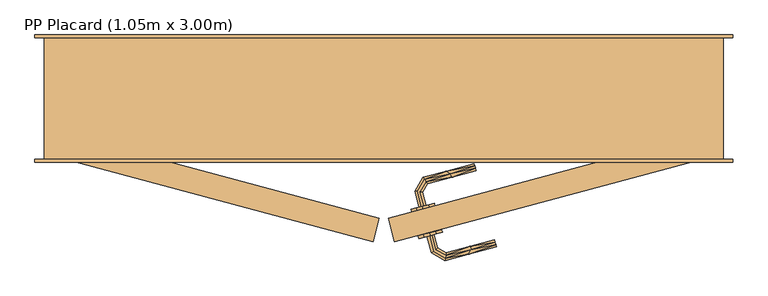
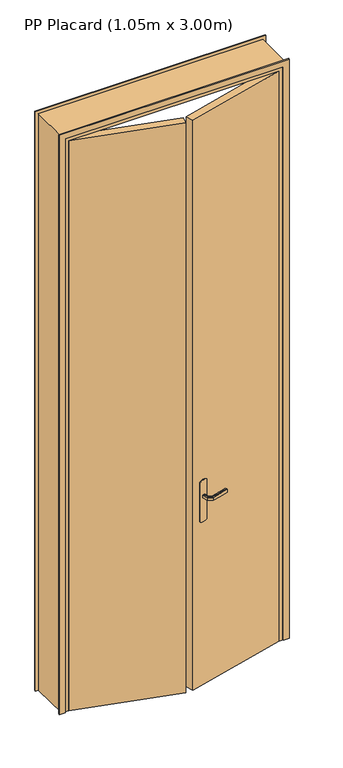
"""IFC4 building model written with IfcOpenShell, lengths in millimetres: door geometry, PP Placard (1.05m x 3.00m)."""

from ifc_helpers import new_model, si_unit, frame, origin, origin_with_axes, place, context, project, spatial, polyline, outline, extrude, faceted_brep, source, transform, mapped, element, save


def pp_placard_1_05m_x_3_00m_5a693a3f(model_context):
    return source(origin(), model_context, "Body", "SolidModel", [
        extrude(outline(polyline([(0.0, 0.0), (3.0658951, 9.9818657), (212.1249722, 29.8389109), (217.015302, 20.6127508), (219.3510918, 10.4352539), (218.9731616, 0.0), (215.9072666, -9.9818658), (6.8481894, -29.8389109), (1.9578596, -20.6127507), (-0.3779302, -10.4352539), (0.0, 0.0)])), frame((635.491729, -79.034331, 866.0039831), z_axis=(-0.2588190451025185, 0.965925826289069, 0.0), x_axis=(-0.09133539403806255, -0.024473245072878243, 0.9955194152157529)), (0.0, 0.0, 1.0), 5.0),
        extrude(outline(polyline([(0.0, -15.0), (0.0, 15.0), (3030.0, 15.0), (3030.0, 1105.0), (0.0, 1105.0), (0.0, 1135.0), (3060.0, 1135.0), (3060.0, -15.0), (0.0, -15.0)])), frame((0.0, -5.0, 0.0), z_axis=(0.0, 1.0, 0.0), x_axis=(0.0, 0.0, 1.0)), (0.0, 0.0, 1.0), 5.0),
        extrude(outline(polyline([(0.0, -15.0), (0.0, 15.0), (3030.0, 15.0), (3030.0, 1105.0), (0.0, 1105.0), (0.0, 1135.0), (3060.0, 1135.0), (3060.0, -15.0), (0.0, -15.0)])), frame((0.0, 200.0, 0.0), z_axis=(0.0, 1.0, 0.0), x_axis=(0.0, 0.0, 1.0)), (0.0, 0.0, 1.0), 5.0),
        extrude(outline(polyline([(552.4638206, -97.2429656), (542.1110588, -135.8799987), (35.0, 0.0), (45.3527618, 38.6370331), (552.4638206, -97.2429656)])), origin_with_axes(), (0.0, 0.0, 1.0), 3010.0),
        faceted_brep([(622.2413455, -77.4083797, 1007.7804408), (618.4020788, -78.4371081, 1007.0), (618.4020788, -78.4371081, 993.0), (622.2413455, -77.4083797, 992.2195592), (626.153922, -76.3600079, 992.2195592), (629.9931887, -75.3312795, 993.0), (629.9931887, -75.3312795, 1007.0), (626.153922, -76.3600079, 1007.7804408), (624.1735895, -53.6122398, 993.0), (624.1735895, -53.6122398, 1007.0), (619.9082096, -53.0506919, 1007.7804408), (629.6759052, -36.1325469, 1007.7804408), (627.0068911, -32.6542201, 1007.7804408), (615.5613833, -52.4784213, 1007.7804408), (611.2960033, -51.9168734, 1007.0), (611.2960033, -51.9168734, 993.0), (615.5613833, -52.4784213, 992.2195592), (627.0068911, -32.6542201, 992.2195592), (629.6759052, -36.1325469, 992.2195592), (619.9082096, -53.0506919, 992.2195592), (632.2949099, -39.5457003, 993.0), (632.2949099, -39.5457003, 1007.0), (624.3878864, -29.2410667, 1007.0), (624.3878864, -29.2410667, 993.0), (712.0422313, -18.17747, 993.0), (711.0135029, -14.3382033, 992.2195592), (709.9651311, -10.4256267, 992.2195592), (708.9364027, -6.58636, 993.0), (708.9364027, -6.58636, 1007.0), (709.9651311, -10.4256267, 1007.7804408), (711.0135029, -14.3382033, 1007.7804408), (712.0422313, -18.17747, 1007.0), (672.1685591, -28.8615882, 993.0), (672.1685706, -28.8615851, 1007.0), (669.8205181, -23.2790868, 1007.8786868), (662.9577752, -18.9062961, 1007.0), (662.9577738, -18.9062965, 993.0), (669.8205184, -23.2790868, 992.1213132)], [[[0, 1, 2, 3, 4, 5, 6, 7]], [[6, 5, 8, 9]], [[9, 10, 7, 6]], [[10, 11, 12, 13, 0, 7]], [[13, 14, 1, 0]], [[2, 1, 14, 15]], [[15, 16, 3, 2]], [[16, 17, 18, 19, 4, 3]], [[19, 8, 5, 4]], [[9, 8, 20, 21]], [[21, 11, 10, 9]], [[12, 22, 14, 13]], [[15, 14, 22, 23]], [[23, 17, 16, 15]], [[18, 20, 8, 19]], [[24, 25, 26, 27, 28, 29, 30, 31]], [[21, 20, 32, 24, 31, 33]], [[33, 30, 34]], [[35, 34, 29]], [[21, 33, 11]], [[33, 31, 30]], [[28, 35, 29]], [[22, 12, 35]], [[35, 12, 34]], [[12, 11, 34]], [[11, 33, 34]], [[29, 34, 30]], [[22, 35, 28, 27, 36, 23]], [[36, 26, 37]], [[27, 26, 36]], [[17, 23, 36]], [[37, 32, 18]], [[20, 18, 32]], [[32, 25, 24]], [[26, 25, 37]], [[25, 32, 37]], [[17, 36, 37]], [[17, 37, 18]]]),
        extrude(outline(polyline([(567.5361794, -97.2429656), (1074.6472382, 38.6370331), (1085.0, 0.0), (577.8889412, -135.8799987), (567.5361794, -97.2429656)])), origin_with_axes(), (0.0, 0.0, 1.0), 3010.0),
        extrude(outline(polyline([(0.0, 0.0), (3.0658951, 9.9818657), (212.1249722, 29.8389109), (217.015302, 20.6127508), (219.3510918, 10.4352539), (218.9731616, 0.0), (215.9072666, -9.9818657), (6.8481894, -29.8389108), (1.9578596, -20.6127507), (-0.3779302, -10.4352539), (0.0, 0.0)])), frame((647.138586, -122.5009932, 866.0039831), z_axis=(-0.2588190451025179, 0.9659258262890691, 0.0), x_axis=(-0.09133539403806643, -0.024473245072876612, 0.9955194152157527)), (0.0, 0.0, 1.0), 5.0),
        faceted_brep([(635.1822977, -125.704671, 1007.7804408), (639.0948743, -124.6562992, 1007.7804408), (642.934141, -123.6275708, 1007.0), (642.934141, -123.6275708, 993.0), (639.0948743, -124.6562992, 992.2195592), (635.1822977, -125.704671, 992.2195592), (631.343031, -126.7333994, 993.0), (631.343031, -126.7333994, 1007.0), (638.4996237, -153.4421668, 1007.0), (641.9127771, -150.823162, 1007.7804408), (661.5685653, -162.1714366, 1007.7804408), (662.1408358, -157.8246103, 1007.7804408), (645.3911039, -148.154148, 1007.7804408), (648.8042573, -145.5351433, 1007.0), (648.8042573, -145.5351433, 993.0), (645.3911039, -148.154148, 992.2195592), (662.1408358, -157.8246103, 992.2195592), (661.5685653, -162.1714366, 992.2195592), (641.9127771, -150.823162, 992.2195592), (638.4996237, -153.4421668, 993.0), (661.0070174, -166.4368166, 1007.0), (662.7023838, -153.5592304, 1007.0), (662.7023838, -153.5592304, 993.0), (661.0070174, -166.4368166, 993.0), (745.6621387, -143.7535452, 993.0), (744.6334103, -139.9142785, 992.2195592), (743.5850385, -136.001702, 992.2195592), (742.5563101, -132.1624353, 993.0), (742.5563101, -132.1624353, 1007.0), (743.5850385, -136.001702, 1007.7804408), (744.6334103, -139.9142785, 1007.7804408), (745.6621387, -143.7535452, 1007.0), (699.5769063, -156.102046, 1007.0), (703.3871231, -148.8694444, 1007.8786868), (702.6293469, -142.8608328, 1007.0), (702.6293469, -142.8608328, 993.0), (703.3871229, -148.8694445, 992.1213132), (699.5769091, -156.1020452, 993.0)], [[[0, 1, 2, 3, 4, 5, 6, 7]], [[8, 9, 0, 7]], [[9, 10, 11, 12, 1, 0]], [[12, 13, 2, 1]], [[3, 2, 13, 14]], [[14, 15, 4, 3]], [[15, 16, 17, 18, 5, 4]], [[18, 19, 6, 5]], [[7, 6, 19, 8]], [[20, 10, 9, 8]], [[11, 21, 13, 12]], [[14, 13, 21, 22]], [[22, 16, 15, 14]], [[17, 23, 19, 18]], [[8, 19, 23, 20]], [[24, 25, 26, 27, 28, 29, 30, 31]], [[32, 30, 33]], [[31, 30, 32]], [[10, 20, 32]], [[33, 34, 11]], [[21, 11, 34]], [[34, 29, 28]], [[30, 29, 33]], [[29, 34, 33]], [[10, 32, 33]], [[10, 33, 11]], [[22, 21, 34, 28, 27, 35]], [[35, 26, 36]], [[37, 36, 25]], [[22, 35, 16]], [[35, 27, 26]], [[24, 37, 25]], [[23, 17, 37]], [[37, 17, 36]], [[17, 16, 36]], [[16, 35, 36]], [[25, 36, 26]], [[20, 23, 37, 24, 31, 32]]]),
        faceted_brep([(0.0, 0.0, 0.0), (0.0, 200.0, 0.0), (50.0, 200.0, 0.0), (50.0, 40.0, 0.0), (35.0, 40.0, 0.0), (35.0, 0.0, 0.0), (0.0, 0.0, 3045.0), (0.0, 200.0, 3045.0), (1120.0, 200.0, 3045.0), (1120.0, 200.0, 0.0), (1070.0, 200.0, 0.0), (1070.0, 200.0, 2995.0), (50.0, 200.0, 2995.0), (50.0, 40.0, 2995.0), (1070.0, 40.0, 2995.0), (1070.0, 40.0, 0.0), (1085.0, 40.0, 0.0), (1085.0, 40.0, 3010.0), (35.0, 40.0, 3010.0), (35.0, 0.0, 3010.0), (1085.0, 0.0, 3010.0), (1085.0, 0.0, 0.0), (1120.0, 0.0, 0.0), (1120.0, 0.0, 3045.0)], [[[0, 1, 2, 3, 4, 5]], [[1, 0, 6, 7]], [[2, 1, 7, 8, 9, 10, 11, 12]], [[3, 2, 12, 13]], [[4, 3, 13, 14, 15, 16, 17, 18]], [[5, 4, 18, 19]], [[0, 5, 19, 20, 21, 22, 23, 6]], [[8, 23, 22, 9]], [[22, 21, 16, 15, 10, 9]], [[14, 11, 10, 15]], [[20, 17, 16, 21]], [[7, 6, 23, 8]], [[13, 12, 11, 14]], [[19, 18, 17, 20]]]),
    ])


if __name__ == "__main__":
    model = new_model("IFC4")
    model_context = context("Model", 3, world=origin())
    ifc_project = project(units=[si_unit("LENGTHUNIT", "METRE", prefix="MILLI")], contexts=[model_context])
    site = spatial("IfcSite", under=ifc_project)
    building = spatial("IfcBuilding", under=site)
    placement = place(None, origin())
    pp_placard_1_05m_x_3_00m_shape = pp_placard_1_05m_x_3_00m_5a693a3f(model_context)
    element("IfcDoor", 1, ObjectType="PP Placard (1.05m x 3.00m)", at=placement, inside=building, context=model_context, shape_type="MappedRepresentation", body=[
        mapped(pp_placard_1_05m_x_3_00m_shape, transform((0.0, 0.0, 0.0), x_axis=(1.0, 0.0, 0.0), y_axis=(0.0, 1.0, 0.0), z_axis=(0.0, 0.0, 1.0))),
    ])
    save(model, "model.ifc")
